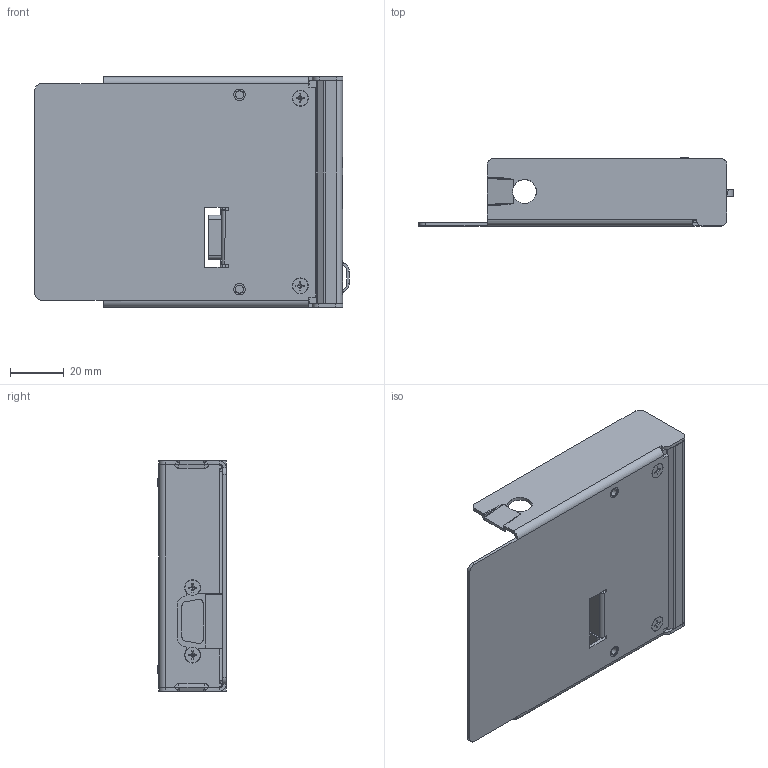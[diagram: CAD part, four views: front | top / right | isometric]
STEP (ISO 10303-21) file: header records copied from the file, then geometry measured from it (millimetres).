
FILE_DESCRIPTION((''),'2;1');
FILE_NAME('CU_USB_916X','2008-03-13T',('chrisj'),(''),'PRO/ENGINEER BY PARAMETRIC TECHNOLOGY CORPORATION, 2006300','PRO/ENGINEER BY PARAMETRIC TECHNOLOGY CORPORATION, 2006300','');
FILE_SCHEMA(('AUTOMOTIVE_DESIGN_CC2 { 1 2 10303 214 -1 1 5 2 }'));
Length unit declared in the file: inch
Products named in the file (1): CU_USB_916X
Bounding box: 116.92 x 25.41 x 85.7 mm (x, y, z)
Volume: 31975.1 mm3; surface area: 51599.2 mm2
Topology: 9 solids, 9 shells, 583 faces, 1437 edges, 830 vertices
Faces by surface type: plane 328, cylinder 137, bspline 100, cone 18
Entity records: 19521 total; most frequent: CARTESIAN_POINT 6459, ORIENTED_EDGE 2714, DIRECTION 2483, EDGE_CURVE 1357, VECTOR 933, LINE 933, VERTEX_POINT 906, AXIS2_PLACEMENT_3D 775
